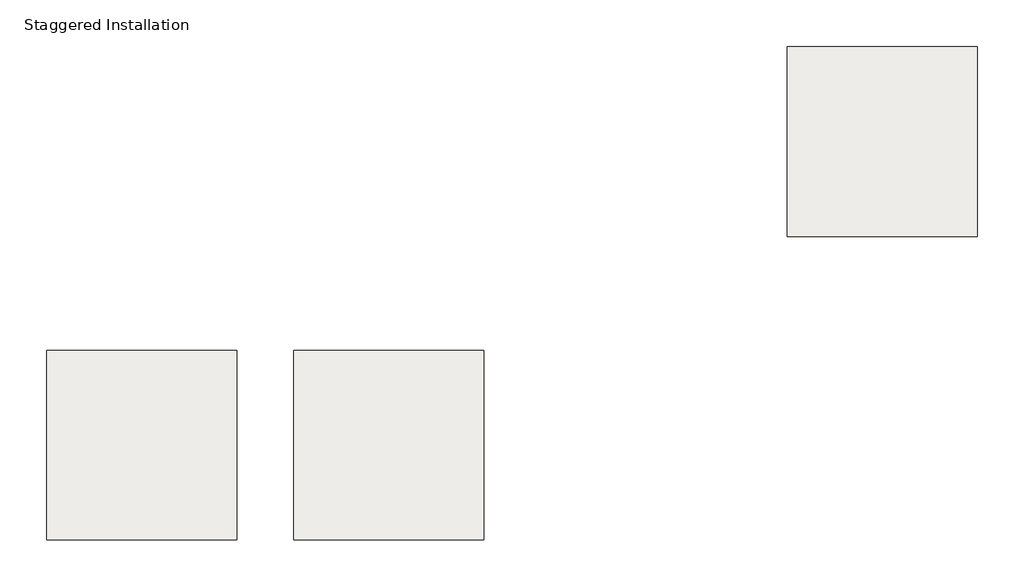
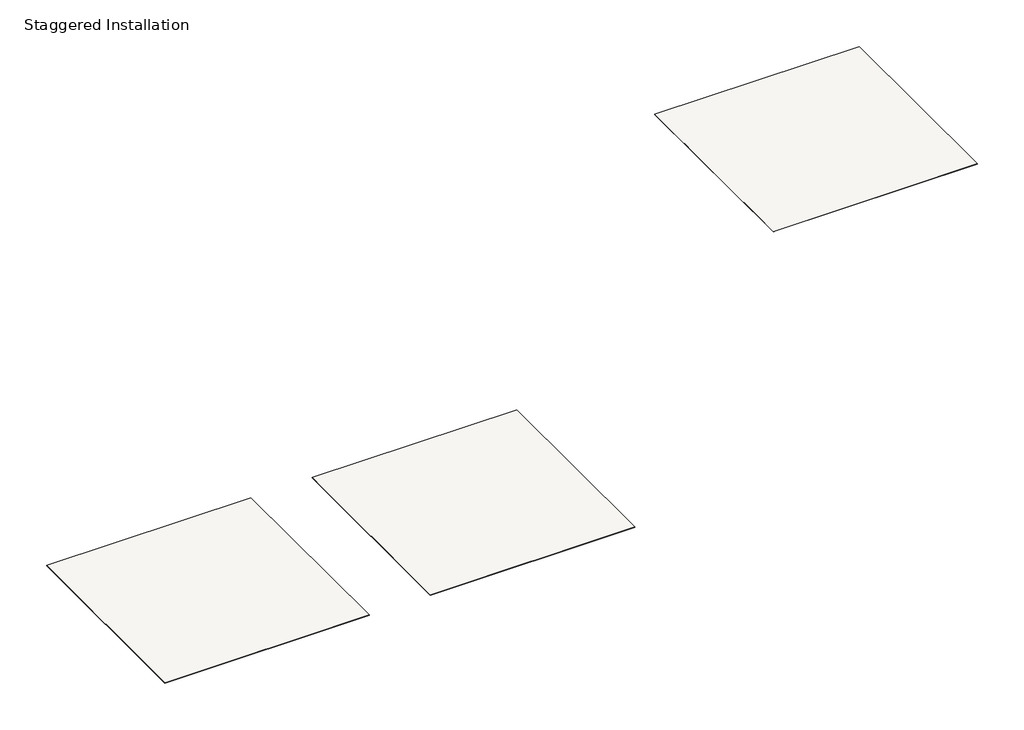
# One storey: 3 slabs.
"""IFC4 building model written with IfcOpenShell, lengths in millimetres."""

import ifcopenshell
import ifcopenshell.guid

model = None  # the IFC model being written
_history = None  # IfcOwnerHistory: only IFC2X3 demands one
_inside = {}  # id of a spatial element -> (the spatial element, [elements in it])
_under = {}  # id of a project, library or spatial element -> (it, [spatial elements below it])
_declared = {}  # id of a project -> (the project, [libraries it declares])
_typed = {}  # id of a type object -> (the type object, [elements of that type])
_made_of = {}  # id of a material, layer set ... -> (it, [elements and type objects made of it])


def new_model(schema):
    """Start an empty IFC model of exactly this schema.

    Asked for "IFC4X3", IfcOpenShell would pick the latest addendum, in which some entities
    have other attributes; the version numbers below select the first issue.
    IFC2X3 requires an IfcOwnerHistory on every rooted entity: one is made here for all.
    """
    global model, _history
    if schema == "IFC4X3":
        model = ifcopenshell.file(schema_version=(4, 3, 0, 0))
    else:
        model = ifcopenshell.file(schema=schema)
    _inside.clear()
    _under.clear()
    _declared.clear()
    _typed.clear()
    _made_of.clear()
    _history = None
    if model.schema == "IFC2X3":
        org = make("IfcOrganization", Name="unknown")
        user = make(
            "IfcPersonAndOrganization",
            ThePerson=make("IfcPerson", FamilyName="unknown"),
            TheOrganization=org,
        )
        app = make(
            "IfcApplication",
            ApplicationDeveloper=org,
            Version="unknown",
            ApplicationFullName="unknown",
            ApplicationIdentifier="unknown",
        )
        _history = make(
            "IfcOwnerHistory",
            OwningUser=user,
            OwningApplication=app,
            ChangeAction="ADDED",
            CreationDate=0,
        )
    return model


def make(cls, **values):
    """One entity of the class cls with the attributes given. An attribute that is None is left unset."""
    return model.create_entity(
        cls, **{name: value for name, value in values.items() if value is not None}
    )


def rooted(cls, **values):
    """An entity with a GlobalId (a new one), such as an element, a storey or a relation."""
    return make(cls, GlobalId=ifcopenshell.guid.new(), OwnerHistory=_history, **values)


def si_unit(unit_type, name, prefix=None):
    """IfcSIUnit, for example si_unit("LENGTHUNIT", "METRE", prefix="MILLI")."""
    return make("IfcSIUnit", UnitType=unit_type, Prefix=prefix, Name=name)


def assignment(units):
    """IfcUnitAssignment: the units of a project."""
    return None if units is None else make("IfcUnitAssignment", Units=units)


def point(xyz):
    """IfcCartesianPoint."""
    return None if xyz is None else make("IfcCartesianPoint", Coordinates=xyz)


def direction(xyz):
    """IfcDirection."""
    return None if xyz is None else make("IfcDirection", DirectionRatios=xyz)


def frame(location, z_axis=None, x_axis=None):
    """IfcAxis2Placement3D, a coordinate frame: its origin and axes. An axis left out is left unset."""
    return make(
        "IfcAxis2Placement3D",
        Location=point(location),
        Axis=direction(z_axis),
        RefDirection=direction(x_axis),
    )


def origin():
    """The frame at (0, 0, 0) with its axes left unset."""
    return frame((0.0, 0.0, 0.0))


def place(relative_to, where):
    """IfcLocalPlacement: puts the frame where relative to a parent placement (None: the world)."""
    return make(
        "IfcLocalPlacement", PlacementRelTo=relative_to, RelativePlacement=where
    )


def context(
    kind, dimensions, precision=None, world=None, true_north=None, identifier=None
):
    """IfcGeometricRepresentationContext, for example the 3D "Model" context."""
    return make(
        "IfcGeometricRepresentationContext",
        ContextIdentifier=identifier,
        ContextType=kind,
        CoordinateSpaceDimension=dimensions,
        Precision=precision,
        WorldCoordinateSystem=world,
        TrueNorth=true_north,
    )


def project(units=None, contexts=None):
    """IfcProject with its units and contexts."""
    return rooted(
        "IfcProject",
        Name="project",
        RepresentationContexts=contexts,
        UnitsInContext=assignment(units),
    )


def spatial(cls, under=None, at=None, **own):
    """A site, building, storey or space (cls), placed at a placement, below another one or the project."""
    s = rooted(cls, ObjectPlacement=at, **own)
    if under is not None:
        _under.setdefault(under.id(), (under, []))[1].append(s)
    return s


def polyline(points):
    """IfcPolyline through the points."""
    return make("IfcPolyline", Points=[point(p) for p in points])


def outline(outer, holes=None, kind="AREA"):
    """IfcArbitraryClosedProfileDef: a profile drawn as a closed curve; with holes, ...WithVoids."""
    if holes is None:
        return make("IfcArbitraryClosedProfileDef", ProfileType=kind, OuterCurve=outer)
    return make(
        "IfcArbitraryProfileDefWithVoids",
        ProfileType=kind,
        OuterCurve=outer,
        InnerCurves=holes,
    )


def extrude(swept, where, along, depth):
    """IfcExtrudedAreaSolid: the profile swept, set in the frame where, extruded along a direction by depth."""
    return make(
        "IfcExtrudedAreaSolid",
        SweptArea=swept,
        Position=where,
        ExtrudedDirection=direction(along),
        Depth=depth,
    )


def shape(context_of_items, identifier, shape_type, items):
    """IfcShapeRepresentation: the items that make up one representation, for example the "Body"."""
    return make(
        "IfcShapeRepresentation",
        ContextOfItems=context_of_items,
        RepresentationIdentifier=identifier,
        RepresentationType=shape_type,
        Items=items,
    )


def made_of(thing, what):
    """Note that an element or type object is made of a material, layer set ...; save() writes the relation."""
    if what is not None:
        _made_of.setdefault(what.id(), (what, []))[1].append(thing)
    return thing


def element(
    cls,
    number,
    at=None,
    inside=None,
    cuts=None,
    type_object=None,
    material=None,
    context=None,
    identifier="Body",
    shape_type=None,
    held_by="IfcProductDefinitionShape",
    body=None,
    shapes=None,
    **own,
):
    """One element of the class cls, such as IfcWall. Its Tag is "e" and its number.

    at: its placement. inside: the storey or other place that contains it. cuts: it is an
    opening in that element (IfcRelVoidsElement). A single representation is given by context,
    identifier, shape_type and body (its items); several are given by shapes. held_by: the class
    of the entity that holds the representations. save() writes the other relations.
    """
    e = rooted(cls, Tag="e%d" % number, ObjectPlacement=at, **own)
    if body is not None:
        shapes = [shape(context, identifier, shape_type, body)]
    if shapes is not None:
        e.Representation = make(held_by, Representations=shapes)
    if inside is not None:
        _inside.setdefault(inside.id(), (inside, []))[1].append(e)
    if cuts is not None:
        rooted(
            "IfcRelVoidsElement", RelatingBuildingElement=cuts, RelatedOpeningElement=e
        )
    if type_object is not None:
        _typed.setdefault(type_object.id(), (type_object, []))[1].append(e)
    return made_of(e, material)


def aggregate(whole, parts):
    """IfcRelAggregates: a whole, such as a stair, and the parts it consists of."""
    return rooted("IfcRelAggregates", RelatingObject=whole, RelatedObjects=parts)


def save(model, path):
    """Write the relations noted so far, then the file.

    IfcRelAggregates (storeys below a building ...), IfcRelContainedInSpatialStructure (elements
    in a storey), IfcRelDefinesByType, IfcRelAssociatesMaterial and IfcRelDeclares: one each for
    every whole, place, type object, material and project.
    """
    for whole, parts in _under.values():
        aggregate(whole, parts)
    for where, things in _inside.values():
        rooted(
            "IfcRelContainedInSpatialStructure",
            RelatedElements=things,
            RelatingStructure=where,
        )
    for kind, things in _typed.values():
        rooted("IfcRelDefinesByType", RelatedObjects=things, RelatingType=kind)
    for what, things in _made_of.values():
        rooted("IfcRelAssociatesMaterial", RelatedObjects=things, RelatingMaterial=what)
    for by, libraries in _declared.values():
        rooted("IfcRelDeclares", RelatingContext=by, RelatedDefinitions=libraries)
    model.write(path)


model = new_model("IFC4")

# Units and contexts
model_context = context("Model", 3, world=origin())
ifc_project = project(units=[si_unit("LENGTHUNIT", "METRE", prefix="MILLI")], contexts=[model_context])

# Site, building, storey
site = spatial("IfcSite", under=ifc_project)
building = spatial("IfcBuilding", under=site)
storey = spatial("IfcBuildingStorey", under=building, Name="Staggered Installation", Elevation=3048.0)

# Slabs
placement = place(None, origin())
element("IfcSlab", 1, ObjectType="Armstrong_VCT_Striations_T3615 honey (staggered)", at=placement, inside=storey, context=model_context, shape_type="SweptSolid", body=[
    extrude(outline(polyline([(9255.2055838, -4430.4304569), (9255.2055838, -5954.4304569), (7731.2055838, -5954.4304569), (7731.2055838, -4430.4304569), (9255.2055838, -4430.4304569)])), frame((0.0, 0.0, 3044.825), z_axis=(0.0, 0.0, 1.0), x_axis=(1.0, 0.0, 0.0)), (0.0, 0.0, 1.0), 3.175),
])
element("IfcSlab", 2, ObjectType="Armstrong_VCT_Striations_T316 tea time (staggered)", at=placement, inside=storey, context=model_context, shape_type="SweptSolid", body=[
    extrude(outline(polyline([(3311.6055838, -6868.8304569), (3311.6055838, -8392.8304569), (1787.6055838, -8392.8304569), (1787.6055838, -6868.8304569), (3311.6055838, -6868.8304569)])), frame((0.0, 0.0, 3044.825), z_axis=(0.0, 0.0, 1.0), x_axis=(1.0, 0.0, 0.0)), (0.0, 0.0, 1.0), 3.175),
])
element("IfcSlab", 3, ObjectType="Armstrong_VCT_Striations_T317 forest floor (staggered)", at=placement, inside=storey, context=model_context, shape_type="SweptSolid", body=[
    extrude(outline(polyline([(5292.8055838, -6868.8304569), (5292.8055838, -8392.8304569), (3768.8055838, -8392.8304569), (3768.8055838, -6868.8304569), (5292.8055838, -6868.8304569)])), frame((0.0, 0.0, 3044.825), z_axis=(0.0, 0.0, 1.0), x_axis=(1.0, 0.0, 0.0)), (0.0, 0.0, 1.0), 3.175),
])

save(model, "model.ifc")
